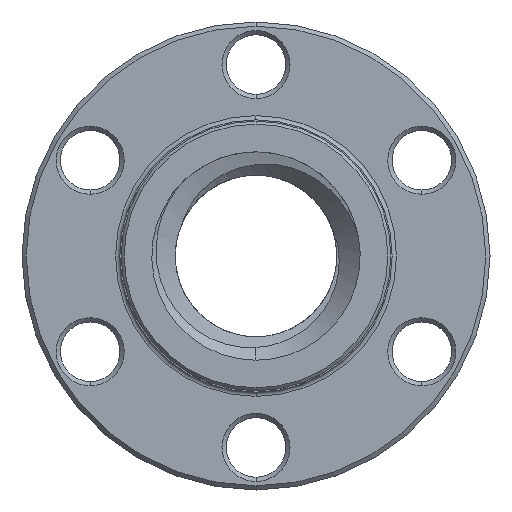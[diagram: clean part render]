
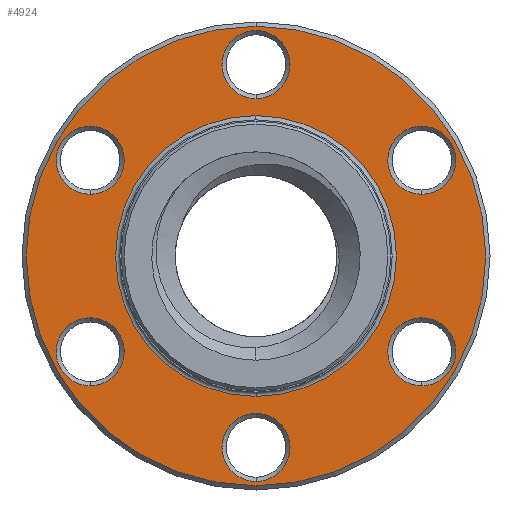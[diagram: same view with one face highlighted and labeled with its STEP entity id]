
A CAD part, left-side view. The second image highlights one B-rep face of the part: STEP entity #4924.
In plain terms, the highlighted planar face has unit normal (-1, 0, 0).
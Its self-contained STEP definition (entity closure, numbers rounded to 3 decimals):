
#2041=CARTESIAN_POINT('',(0.,0.,-22.5));
#2042=DIRECTION('',(1.,0.,0.));
#2043=DIRECTION('',(0.,0.,1.));
#2044=AXIS2_PLACEMENT_3D('',#2041,#2042,#2043);
#2046=CARTESIAN_POINT('',(0.,0.,-22.5));
#2047=DIRECTION('',(1.,0.,0.));
#2048=DIRECTION('',(0.,0.,-1.));
#2049=AXIS2_PLACEMENT_3D('',#2046,#2047,#2048);
#2051=CARTESIAN_POINT('',(0.,19.486,-11.25));
#2052=DIRECTION('',(1.,0.,0.));
#2053=DIRECTION('',(0.,0.,1.));
#2054=AXIS2_PLACEMENT_3D('',#2051,#2052,#2053);
#2056=CARTESIAN_POINT('',(0.,19.486,-11.25));
#2057=DIRECTION('',(1.,0.,0.));
#2058=DIRECTION('',(0.,0.,-1.));
#2059=AXIS2_PLACEMENT_3D('',#2056,#2057,#2058);
#2061=CARTESIAN_POINT('',(0.,19.486,11.25));
#2062=DIRECTION('',(1.,0.,0.));
#2063=DIRECTION('',(0.,0.,1.));
#2064=AXIS2_PLACEMENT_3D('',#2061,#2062,#2063);
#2066=CARTESIAN_POINT('',(0.,19.486,11.25));
#2067=DIRECTION('',(1.,0.,0.));
#2068=DIRECTION('',(0.,0.,-1.));
#2069=AXIS2_PLACEMENT_3D('',#2066,#2067,#2068);
#2071=CARTESIAN_POINT('',(0.,0.,22.5));
#2072=DIRECTION('',(1.,0.,0.));
#2073=DIRECTION('',(0.,0.,1.));
#2074=AXIS2_PLACEMENT_3D('',#2071,#2072,#2073);
#2076=CARTESIAN_POINT('',(0.,0.,22.5));
#2077=DIRECTION('',(1.,0.,0.));
#2078=DIRECTION('',(0.,0.,-1.));
#2079=AXIS2_PLACEMENT_3D('',#2076,#2077,#2078);
#2081=CARTESIAN_POINT('',(0.,-19.486,11.25));
#2082=DIRECTION('',(1.,0.,0.));
#2083=DIRECTION('',(0.,0.,1.));
#2084=AXIS2_PLACEMENT_3D('',#2081,#2082,#2083);
#2086=CARTESIAN_POINT('',(0.,-19.486,11.25));
#2087=DIRECTION('',(1.,0.,0.));
#2088=DIRECTION('',(0.,0.,-1.));
#2089=AXIS2_PLACEMENT_3D('',#2086,#2087,#2088);
#2091=CARTESIAN_POINT('',(0.,-19.486,-11.25));
#2092=DIRECTION('',(1.,0.,0.));
#2093=DIRECTION('',(0.,0.,1.));
#2094=AXIS2_PLACEMENT_3D('',#2091,#2092,#2093);
#2096=CARTESIAN_POINT('',(0.,-19.486,-11.25));
#2097=DIRECTION('',(1.,0.,0.));
#2098=DIRECTION('',(0.,0.,-1.));
#2099=AXIS2_PLACEMENT_3D('',#2096,#2097,#2098);
#2101=CARTESIAN_POINT('',(0.,0.,
0.));
#2102=DIRECTION('',(-1.,0.,0.));
#2103=DIRECTION('',(0.,0.,-1.));
#2104=AXIS2_PLACEMENT_3D('',#2101,#2102,#2103);
#2106=CARTESIAN_POINT('',(0.,0.,
0.));
#2107=DIRECTION('',(-1.,0.,0.));
#2108=DIRECTION('',(0.,0.,1.));
#2109=AXIS2_PLACEMENT_3D('',#2106,#2107,#2108);
#2111=CARTESIAN_POINT('',(0.,0.,0.));
#2112=DIRECTION('',(1.,0.,0.));
#2113=DIRECTION('',(0.,0.,1.));
#2114=AXIS2_PLACEMENT_3D('',#2111,#2112,#2113);
#2116=CARTESIAN_POINT('',(0.,0.,0.));
#2117=DIRECTION('',(1.,0.,0.));
#2118=DIRECTION('',(0.,0.,-1.));
#2119=AXIS2_PLACEMENT_3D('',#2116,#2117,#2118);
#2532=CARTESIAN_POINT('',(0.,0.,-18.5));
#2533=CARTESIAN_POINT('',(0.,0.,-26.5));
#2534=VERTEX_POINT('',#2532);
#2535=VERTEX_POINT('',#2533);
#2548=CARTESIAN_POINT('',(0.,19.486,
-7.25));
#2549=CARTESIAN_POINT('',(0.,19.486,
-15.25));
#2550=VERTEX_POINT('',#2548);
#2551=VERTEX_POINT('',#2549);
#2564=CARTESIAN_POINT('',(0.,19.486,15.25));
#2565=CARTESIAN_POINT('',(0.,19.486,7.25));
#2566=VERTEX_POINT('',#2564);
#2567=VERTEX_POINT('',#2565);
#2580=CARTESIAN_POINT('',(0.,0.,26.5));
#2581=CARTESIAN_POINT('',(0.,0.,18.5));
#2582=VERTEX_POINT('',#2580);
#2583=VERTEX_POINT('',#2581);
#2596=CARTESIAN_POINT('',(0.,-19.486,
15.25));
#2597=CARTESIAN_POINT('',(0.,-19.486,
7.25));
#2598=VERTEX_POINT('',#2596);
#2599=VERTEX_POINT('',#2597);
#2612=CARTESIAN_POINT('',(0.,-19.486,
-7.25));
#2613=CARTESIAN_POINT('',(0.,-19.486,
-15.25));
#2614=VERTEX_POINT('',#2612);
#2615=VERTEX_POINT('',#2613);
#2628=CARTESIAN_POINT('',(0.,0.,-27.));
#2629=CARTESIAN_POINT('',(0.,0.,27.));
#2630=VERTEX_POINT('',#2628);
#2631=VERTEX_POINT('',#2629);
#2644=CARTESIAN_POINT('',(0.,0.,16.5));
#2645=CARTESIAN_POINT('',(0.,0.,-16.5));
#2646=VERTEX_POINT('',#2644);
#2647=VERTEX_POINT('',#2645);
#4872=CARTESIAN_POINT('',(0.,0.,0.));
#4873=DIRECTION('',(1.,0.,0.));
#4874=DIRECTION('',(0.,0.,-1.));
#4875=AXIS2_PLACEMENT_3D('',#4872,#4873,#4874);
#4876=PLANE('',#4875);
#4878=ORIENTED_EDGE('',*,*,#4877,.F.);
#4880=ORIENTED_EDGE('',*,*,#4879,.F.);
#4881=EDGE_LOOP('',(#4878,#4880));
#4882=FACE_OUTER_BOUND('',#4881,.F.);
#4883=ORIENTED_EDGE('',*,*,#4862,.F.);
#4885=ORIENTED_EDGE('',*,*,#4884,.F.);
#4886=EDGE_LOOP('',(#4883,#4885));
#4887=FACE_BOUND('',#4886,.F.);
#4889=ORIENTED_EDGE('',*,*,#4888,.F.);
#4891=ORIENTED_EDGE('',*,*,#4890,.F.);
#4892=EDGE_LOOP('',(#4889,#4891));
#4893=FACE_BOUND('',#4892,.F.);
#4895=ORIENTED_EDGE('',*,*,#4894,.F.);
#4897=ORIENTED_EDGE('',*,*,#4896,.F.);
#4898=EDGE_LOOP('',(#4895,#4897));
#4899=FACE_BOUND('',#4898,.F.);
#4901=ORIENTED_EDGE('',*,*,#4900,.F.);
#4903=ORIENTED_EDGE('',*,*,#4902,.F.);
#4904=EDGE_LOOP('',(#4901,#4903));
#4905=FACE_BOUND('',#4904,.F.);
#4907=ORIENTED_EDGE('',*,*,#4906,.F.);
#4909=ORIENTED_EDGE('',*,*,#4908,.F.);
#4910=EDGE_LOOP('',(#4907,#4909));
#4911=FACE_BOUND('',#4910,.F.);
#4913=ORIENTED_EDGE('',*,*,#4912,.F.);
#4915=ORIENTED_EDGE('',*,*,#4914,.F.);
#4916=EDGE_LOOP('',(#4913,#4915));
#4917=FACE_BOUND('',#4916,.F.);
#4919=ORIENTED_EDGE('',*,*,#4918,.F.);
#4921=ORIENTED_EDGE('',*,*,#4920,.F.);
#4922=EDGE_LOOP('',(#4919,#4921));
#4923=FACE_BOUND('',#4922,.F.);
#4924=ADVANCED_FACE('',(#4882,#4887,#4893,#4899,#4905,#4911,#4917,#4923),#4876,
.F.);
#2045=CIRCLE('',#2044,4.);
#2050=CIRCLE('',#2049,4.);
#2055=CIRCLE('',#2054,4.);
#2060=CIRCLE('',#2059,4.);
#2065=CIRCLE('',#2064,4.);
#2070=CIRCLE('',#2069,4.);
#2075=CIRCLE('',#2074,4.);
#2080=CIRCLE('',#2079,4.);
#2085=CIRCLE('',#2084,4.);
#2090=CIRCLE('',#2089,4.);
#2095=CIRCLE('',#2094,4.);
#2100=CIRCLE('',#2099,4.);
#2105=CIRCLE('',#2104,27.);
#2110=CIRCLE('',#2109,27.);
#2115=CIRCLE('',#2114,16.5);
#2120=CIRCLE('',#2119,16.5);
#4862=EDGE_CURVE('',#2534,#2535,#2045,.T.);
#4877=EDGE_CURVE('',#2630,#2631,#2105,.T.);
#4879=EDGE_CURVE('',#2631,#2630,#2110,.T.);
#4884=EDGE_CURVE('',#2535,#2534,#2050,.T.);
#4888=EDGE_CURVE('',#2550,#2551,#2055,.T.);
#4890=EDGE_CURVE('',#2551,#2550,#2060,.T.);
#4894=EDGE_CURVE('',#2566,#2567,#2065,.T.);
#4896=EDGE_CURVE('',#2567,#2566,#2070,.T.);
#4900=EDGE_CURVE('',#2582,#2583,#2075,.T.);
#4902=EDGE_CURVE('',#2583,#2582,#2080,.T.);
#4906=EDGE_CURVE('',#2598,#2599,#2085,.T.);
#4908=EDGE_CURVE('',#2599,#2598,#2090,.T.);
#4912=EDGE_CURVE('',#2614,#2615,#2095,.T.);
#4914=EDGE_CURVE('',#2615,#2614,#2100,.T.);
#4918=EDGE_CURVE('',#2646,#2647,#2115,.T.);
#4920=EDGE_CURVE('',#2647,#2646,#2120,.T.);
